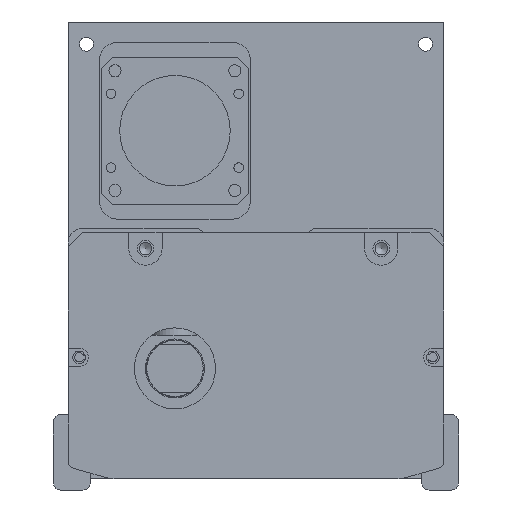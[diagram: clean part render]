
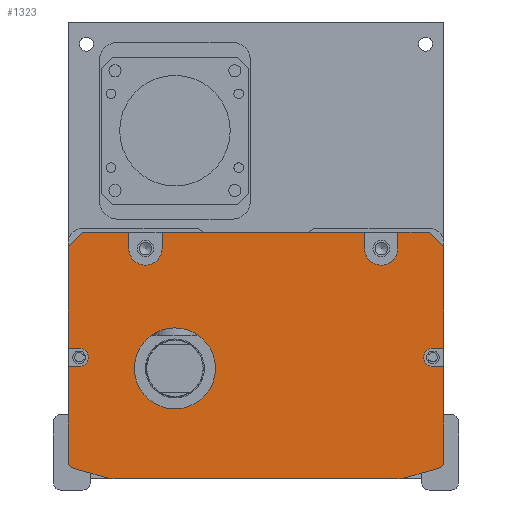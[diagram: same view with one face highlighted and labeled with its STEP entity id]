
A CAD part, front view. The second image highlights one B-rep face of the part: STEP entity #1323.
In plain terms, the highlighted planar face has unit normal (0, -1, 0).
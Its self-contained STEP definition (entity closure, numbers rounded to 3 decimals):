
#1323=ADVANCED_FACE('',(#3944,#3945),#2092,.F.);
#2092=PLANE('',#12837);
#2475=LINE('',#18355,#3237);
#2476=LINE('',#18358,#3238);
#2477=LINE('',#18360,#3239);
#2478=LINE('',#18362,#3240);
#2479=LINE('',#18366,#3241);
#2480=LINE('',#18368,#3242);
#2481=LINE('',#18370,#3243);
#2482=LINE('',#18374,#3244);
#2483=LINE('',#18376,#3245);
#2484=LINE('',#18378,#3246);
#2485=LINE('',#18380,#3247);
#2486=LINE('',#18382,#3248);
#2487=LINE('',#18386,#3249);
#2488=LINE('',#18388,#3250);
#2489=LINE('',#18392,#3251);
#2490=LINE('',#18396,#3252);
#2491=LINE('',#18400,#3253);
#2492=LINE('',#18404,#3254);
#2493=LINE('',#18406,#3255);
#2494=LINE('',#18410,#3256);
#3237=VECTOR('',#14536,1.);
#3238=VECTOR('',#14537,1.);
#3239=VECTOR('',#14538,1.);
#3240=VECTOR('',#14539,1.);
#3241=VECTOR('',#14542,1.);
#3242=VECTOR('',#14543,1.);
#3243=VECTOR('',#14544,1.);
#3244=VECTOR('',#14547,1.);
#3245=VECTOR('',#14548,1.);
#3246=VECTOR('',#14549,1.);
#3247=VECTOR('',#14550,1.);
#3248=VECTOR('',#14551,1.);
#3249=VECTOR('',#14554,1.);
#3250=VECTOR('',#14555,1.);
#3251=VECTOR('',#14558,1.);
#3252=VECTOR('',#14561,1.);
#3253=VECTOR('',#14564,1.);
#3254=VECTOR('',#14567,1.);
#3255=VECTOR('',#14568,1.);
#3256=VECTOR('',#14571,1.);
#3944=FACE_BOUND('',#4582,.T.);
#3945=FACE_BOUND('',#4583,.T.);
#4582=EDGE_LOOP('',(#5837,#5838,#5839,#5840,#5841,#5842,#5843,#5844,#5845,
#5846,#5847,#5848,#5849,#5850,#5851,#5852,#5853,#5854,#5855,#5856,#5857,
#5858,#5859,#5860,#5861,#5862,#5863,#5864));
#4583=EDGE_LOOP('',(#5865));
#5837=ORIENTED_EDGE('',*,*,#10468,.T.);
#5838=ORIENTED_EDGE('',*,*,#10469,.T.);
#5839=ORIENTED_EDGE('',*,*,#10470,.T.);
#5840=ORIENTED_EDGE('',*,*,#10471,.F.);
#5841=ORIENTED_EDGE('',*,*,#10472,.T.);
#5842=ORIENTED_EDGE('',*,*,#10473,.F.);
#5843=ORIENTED_EDGE('',*,*,#10474,.T.);
#5844=ORIENTED_EDGE('',*,*,#10475,.F.);
#5845=ORIENTED_EDGE('',*,*,#10476,.T.);
#5846=ORIENTED_EDGE('',*,*,#10477,.F.);
#5847=ORIENTED_EDGE('',*,*,#10478,.T.);
#5848=ORIENTED_EDGE('',*,*,#10479,.T.);
#5849=ORIENTED_EDGE('',*,*,#10480,.T.);
#5850=ORIENTED_EDGE('',*,*,#10481,.T.);
#5851=ORIENTED_EDGE('',*,*,#10482,.T.);
#5852=ORIENTED_EDGE('',*,*,#10483,.T.);
#5853=ORIENTED_EDGE('',*,*,#10484,.T.);
#5854=ORIENTED_EDGE('',*,*,#10485,.T.);
#5855=ORIENTED_EDGE('',*,*,#10486,.T.);
#5856=ORIENTED_EDGE('',*,*,#10487,.T.);
#5857=ORIENTED_EDGE('',*,*,#10488,.T.);
#5858=ORIENTED_EDGE('',*,*,#10489,.T.);
#5859=ORIENTED_EDGE('',*,*,#10490,.T.);
#5860=ORIENTED_EDGE('',*,*,#10491,.T.);
#5861=ORIENTED_EDGE('',*,*,#10492,.T.);
#5862=ORIENTED_EDGE('',*,*,#10493,.T.);
#5863=ORIENTED_EDGE('',*,*,#10494,.T.);
#5864=ORIENTED_EDGE('',*,*,#10495,.T.);
#5865=ORIENTED_EDGE('',*,*,#10496,.T.);
#9244=VERTEX_POINT('',#18356);
#9245=VERTEX_POINT('',#18357);
#9246=VERTEX_POINT('',#18359);
#9247=VERTEX_POINT('',#18361);
#9248=VERTEX_POINT('',#18363);
#9249=VERTEX_POINT('',#18365);
#9250=VERTEX_POINT('',#18367);
#9251=VERTEX_POINT('',#18369);
#9252=VERTEX_POINT('',#18371);
#9253=VERTEX_POINT('',#18373);
#9254=VERTEX_POINT('',#18375);
#9255=VERTEX_POINT('',#18377);
#9256=VERTEX_POINT('',#18379);
#9257=VERTEX_POINT('',#18381);
#9258=VERTEX_POINT('',#18383);
#9259=VERTEX_POINT('',#18385);
#9260=VERTEX_POINT('',#18387);
#9261=VERTEX_POINT('',#18389);
#9262=VERTEX_POINT('',#18391);
#9263=VERTEX_POINT('',#18393);
#9264=VERTEX_POINT('',#18395);
#9265=VERTEX_POINT('',#18397);
#9266=VERTEX_POINT('',#18399);
#9267=VERTEX_POINT('',#18401);
#9268=VERTEX_POINT('',#18403);
#9269=VERTEX_POINT('',#18405);
#9270=VERTEX_POINT('',#18407);
#9271=VERTEX_POINT('',#18409);
#9272=VERTEX_POINT('',#18412);
#10468=EDGE_CURVE('',#9244,#9245,#2475,.T.);
#10469=EDGE_CURVE('',#9245,#9246,#2476,.T.);
#10470=EDGE_CURVE('',#9246,#9247,#2477,.T.);
#10471=EDGE_CURVE('',#9248,#9247,#2478,.T.);
#10472=EDGE_CURVE('',#9248,#9249,#12077,.T.);
#10473=EDGE_CURVE('',#9250,#9249,#2479,.T.);
#10474=EDGE_CURVE('',#9250,#9251,#2480,.T.);
#10475=EDGE_CURVE('',#9252,#9251,#2481,.T.);
#10476=EDGE_CURVE('',#9252,#9253,#12078,.T.);
#10477=EDGE_CURVE('',#9254,#9253,#2482,.T.);
#10478=EDGE_CURVE('',#9254,#9255,#2483,.T.);
#10479=EDGE_CURVE('',#9255,#9256,#2484,.T.);
#10480=EDGE_CURVE('',#9256,#9257,#2485,.T.);
#10481=EDGE_CURVE('',#9257,#9258,#2486,.T.);
#10482=EDGE_CURVE('',#9258,#9259,#12079,.T.);
#10483=EDGE_CURVE('',#9259,#9260,#2487,.T.);
#10484=EDGE_CURVE('',#9260,#9261,#2488,.T.);
#10485=EDGE_CURVE('',#9261,#9262,#12080,.T.);
#10486=EDGE_CURVE('',#9262,#9263,#2489,.T.);
#10487=EDGE_CURVE('',#9263,#9264,#12081,.T.);
#10488=EDGE_CURVE('',#9264,#9265,#2490,.T.);
#10489=EDGE_CURVE('',#9265,#9266,#12082,.T.);
#10490=EDGE_CURVE('',#9266,#9267,#2491,.T.);
#10491=EDGE_CURVE('',#9267,#9268,#12083,.T.);
#10492=EDGE_CURVE('',#9268,#9269,#2492,.T.);
#10493=EDGE_CURVE('',#9269,#9270,#2493,.T.);
#10494=EDGE_CURVE('',#9270,#9271,#12084,.T.);
#10495=EDGE_CURVE('',#9271,#9244,#2494,.T.);
#10496=EDGE_CURVE('',#9272,#9272,#12085,.T.);
#12077=CIRCLE('',#12828,4.5);
#12078=CIRCLE('',#12829,4.5);
#12079=CIRCLE('',#12830,2.5);
#12080=CIRCLE('',#12831,2.);
#12081=CIRCLE('',#12832,10.);
#12082=CIRCLE('',#12833,10.);
#12083=CIRCLE('',#12834,2.);
#12084=CIRCLE('',#12835,2.5);
#12085=CIRCLE('',#12836,11.);
#12828=AXIS2_PLACEMENT_3D('',#18364,#14540,#14541);
#12829=AXIS2_PLACEMENT_3D('',#18372,#14545,#14546);
#12830=AXIS2_PLACEMENT_3D('',#18384,#14552,#14553);
#12831=AXIS2_PLACEMENT_3D('',#18390,#14556,#14557);
#12832=AXIS2_PLACEMENT_3D('',#18394,#14559,#14560);
#12833=AXIS2_PLACEMENT_3D('',#18398,#14562,#14563);
#12834=AXIS2_PLACEMENT_3D('',#18402,#14565,#14566);
#12835=AXIS2_PLACEMENT_3D('',#18408,#14569,#14570);
#12836=AXIS2_PLACEMENT_3D('',#18411,#14572,#14573);
#12837=AXIS2_PLACEMENT_3D('',#18413,#14574,#14575);
#14536=DIRECTION('',(0.,0.,1.));
#14537=DIRECTION('',(-0.707,0.,0.707));
#14538=DIRECTION('',(-1.,0.,0.));
#14539=DIRECTION('',(0.,0.,1.));
#14540=DIRECTION('',(0.,1.,0.));
#14541=DIRECTION('',(0.,0.,1.));
#14542=DIRECTION('',(0.,0.,-1.));
#14543=DIRECTION('',(-1.,0.,0.));
#14544=DIRECTION('',(0.,0.,1.));
#14545=DIRECTION('',(0.,1.,0.));
#14546=DIRECTION('',(0.,0.,1.));
#14547=DIRECTION('',(0.,0.,-1.));
#14548=DIRECTION('',(-1.,0.,0.));
#14549=DIRECTION('',(-0.707,0.,-0.707));
#14550=DIRECTION('',(0.,0.,-1.));
#14551=DIRECTION('',(1.,0.,0.));
#14552=DIRECTION('',(0.,1.,0.));
#14553=DIRECTION('',(0.,0.,1.));
#14554=DIRECTION('',(-1.,0.,0.));
#14555=DIRECTION('',(0.,0.,-1.));
#14556=DIRECTION('',(0.,-1.,0.));
#14557=DIRECTION('',(0.,0.,1.));
#14558=DIRECTION('',(0.963,0.,-0.269));
#14559=DIRECTION('',(0.,-1.,0.));
#14560=DIRECTION('',(0.,0.,1.));
#14561=DIRECTION('',(1.,0.,0.));
#14562=DIRECTION('',(0.,-1.,0.));
#14563=DIRECTION('',(0.,0.,-1.));
#14564=DIRECTION('',(0.963,0.,0.269));
#14565=DIRECTION('',(0.,-1.,0.));
#14566=DIRECTION('',(0.,0.,-1.));
#14567=DIRECTION('',(0.,0.,1.));
#14568=DIRECTION('',(-1.,0.,0.));
#14569=DIRECTION('',(0.,1.,0.));
#14570=DIRECTION('',(0.,0.,1.));
#14571=DIRECTION('',(1.,0.,0.));
#14572=DIRECTION('',(0.,1.,0.));
#14573=DIRECTION('',(0.,0.,1.));
#14574=DIRECTION('',(0.,1.,0.));
#14575=DIRECTION('',(-1.,0.,0.));
#18355=CARTESIAN_POINT('',(47.808,-167.5,-1.));
#18356=CARTESIAN_POINT('',(47.808,-167.5,-32.5));
#18357=CARTESIAN_POINT('',(47.808,-167.5,-5.));
#18358=CARTESIAN_POINT('',(43.808,-167.5,-1.));
#18359=CARTESIAN_POINT('',(43.808,-167.5,-1.));
#18360=CARTESIAN_POINT('',(-3.192,-167.5,-1.));
#18361=CARTESIAN_POINT('',(35.308,-167.5,-1.));
#18362=CARTESIAN_POINT('',(35.308,-167.5,-1.));
#18363=CARTESIAN_POINT('',(35.308,-167.5,-5.5));
#18364=CARTESIAN_POINT('',(30.808,-167.5,-5.5));
#18365=CARTESIAN_POINT('',(26.308,-167.5,-5.5));
#18366=CARTESIAN_POINT('',(26.308,-167.5,-1.));
#18367=CARTESIAN_POINT('',(26.308,-167.5,-1.));
#18368=CARTESIAN_POINT('',(-54.192,-167.5,-1.));
#18369=CARTESIAN_POINT('',(-28.692,-167.5,-1.));
#18370=CARTESIAN_POINT('',(-28.692,-167.5,-3.5));
#18371=CARTESIAN_POINT('',(-28.692,-167.5,-5.5));
#18372=CARTESIAN_POINT('',(-33.192,-167.5,-5.5));
#18373=CARTESIAN_POINT('',(-37.692,-167.5,-5.5));
#18374=CARTESIAN_POINT('',(-37.692,-167.5,-1.));
#18375=CARTESIAN_POINT('',(-37.692,-167.5,-1.));
#18376=CARTESIAN_POINT('',(-54.192,-167.5,-1.));
#18377=CARTESIAN_POINT('',(-50.192,-167.5,-1.));
#18378=CARTESIAN_POINT('',(-54.192,-167.5,-5.));
#18379=CARTESIAN_POINT('',(-54.192,-167.5,-5.));
#18380=CARTESIAN_POINT('',(-54.192,-167.5,-62.));
#18381=CARTESIAN_POINT('',(-54.192,-167.5,-32.5));
#18382=CARTESIAN_POINT('',(-3.192,-167.5,-32.5));
#18383=CARTESIAN_POINT('',(-51.192,-167.5,-32.5));
#18384=CARTESIAN_POINT('',(-51.192,-167.5,-35.));
#18385=CARTESIAN_POINT('',(-51.192,-167.5,-37.5));
#18386=CARTESIAN_POINT('',(-3.192,-167.5,-37.5));
#18387=CARTESIAN_POINT('',(-54.192,-167.5,-37.5));
#18388=CARTESIAN_POINT('',(-54.192,-167.5,-62.));
#18389=CARTESIAN_POINT('',(-54.192,-167.5,-63.212));
#18390=CARTESIAN_POINT('',(-52.192,-167.5,-63.212));
#18391=CARTESIAN_POINT('',(-52.731,-167.5,-65.138));
#18392=CARTESIAN_POINT('',(-55.807,-167.5,-64.279));
#18393=CARTESIAN_POINT('',(-43.809,-167.5,-67.631));
#18394=CARTESIAN_POINT('',(-41.118,-167.5,-58.));
#18395=CARTESIAN_POINT('',(-41.118,-167.5,-68.));
#18396=CARTESIAN_POINT('',(-54.692,-167.5,-68.));
#18397=CARTESIAN_POINT('',(34.733,-167.5,-68.));
#18398=CARTESIAN_POINT('',(34.733,-167.5,-58.));
#18399=CARTESIAN_POINT('',(37.424,-167.5,-67.631));
#18400=CARTESIAN_POINT('',(49.422,-167.5,-64.279));
#18401=CARTESIAN_POINT('',(46.346,-167.5,-65.138));
#18402=CARTESIAN_POINT('',(45.808,-167.5,-63.212));
#18403=CARTESIAN_POINT('',(47.808,-167.5,-63.212));
#18404=CARTESIAN_POINT('',(47.808,-167.5,-1.));
#18405=CARTESIAN_POINT('',(47.808,-167.5,-37.5));
#18406=CARTESIAN_POINT('',(-3.192,-167.5,-37.5));
#18407=CARTESIAN_POINT('',(44.808,-167.5,-37.5));
#18408=CARTESIAN_POINT('',(44.808,-167.5,-35.));
#18409=CARTESIAN_POINT('',(44.808,-167.5,-32.5));
#18410=CARTESIAN_POINT('',(-3.192,-167.5,-32.5));
#18411=CARTESIAN_POINT('',(-25.192,-167.5,-38.));
#18412=CARTESIAN_POINT('',(-25.192,-167.5,-27.));
#18413=CARTESIAN_POINT('',(-3.192,-167.5,-1.));
